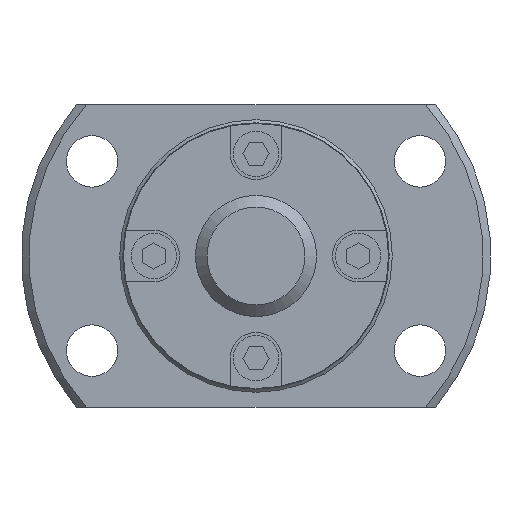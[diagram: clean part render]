
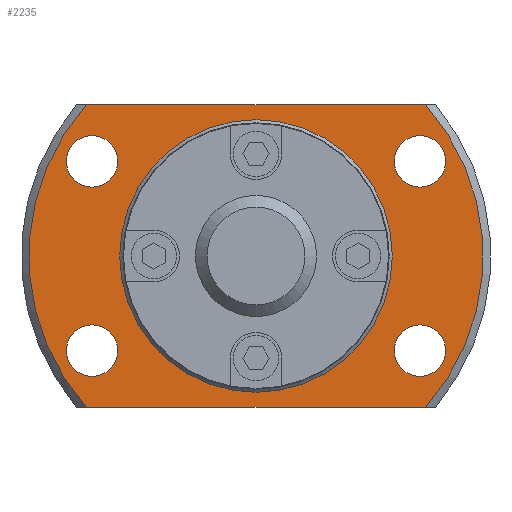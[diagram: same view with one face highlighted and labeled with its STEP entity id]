
A CAD part, left-side view. The second image highlights one B-rep face of the part: STEP entity #2235.
In plain terms, the highlighted planar face has unit normal (-1, 0, 0).
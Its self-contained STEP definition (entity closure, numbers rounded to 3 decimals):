
#68=LINE('',#3461,#284);
#69=LINE('',#3465,#285);
#284=VECTOR('',#2766,1000.);
#285=VECTOR('',#2769,1000.);
#604=ORIENTED_EDGE('',*,*,#1200,.F.);
#605=ORIENTED_EDGE('',*,*,#1201,.F.);
#606=ORIENTED_EDGE('',*,*,#1202,.F.);
#607=ORIENTED_EDGE('',*,*,#1203,.F.);
#608=ORIENTED_EDGE('',*,*,#1186,.F.);
#609=ORIENTED_EDGE('',*,*,#1204,.T.);
#610=ORIENTED_EDGE('',*,*,#1205,.F.);
#611=ORIENTED_EDGE('',*,*,#1206,.T.);
#612=ORIENTED_EDGE('',*,*,#1199,.T.);
#1186=EDGE_CURVE('',#1488,#1489,#1669,.T.);
#1199=EDGE_CURVE('',#1500,#1500,#1677,.T.);
#1200=EDGE_CURVE('',#1501,#1501,#1678,.F.);
#1201=EDGE_CURVE('',#1502,#1502,#1679,.F.);
#1202=EDGE_CURVE('',#1503,#1503,#1680,.F.);
#1203=EDGE_CURVE('',#1504,#1504,#1681,.F.);
#1204=EDGE_CURVE('',#1488,#1505,#68,.T.);
#1205=EDGE_CURVE('',#1506,#1505,#1682,.T.);
#1206=EDGE_CURVE('',#1506,#1489,#69,.T.);
#1488=VERTEX_POINT('',#3409);
#1489=VERTEX_POINT('',#3411);
#1500=VERTEX_POINT('',#3451);
#1501=VERTEX_POINT('',#3454);
#1502=VERTEX_POINT('',#3456);
#1503=VERTEX_POINT('',#3458);
#1504=VERTEX_POINT('',#3460);
#1505=VERTEX_POINT('',#3462);
#1506=VERTEX_POINT('',#3464);
#1669=CIRCLE('',#2418,15.);
#1677=CIRCLE('',#2433,8.85);
#1678=CIRCLE('',#2435,1.7);
#1679=CIRCLE('',#2436,1.7);
#1680=CIRCLE('',#2437,1.7);
#1681=CIRCLE('',#2438,1.7);
#1682=CIRCLE('',#2439,15.);
#1763=EDGE_LOOP('',(#604));
#1764=EDGE_LOOP('',(#605));
#1765=EDGE_LOOP('',(#606));
#1766=EDGE_LOOP('',(#607));
#1767=EDGE_LOOP('',(#608,#609,#610,#611));
#1768=EDGE_LOOP('',(#612));
#1957=FACE_BOUND('',#1763,.T.);
#1958=FACE_BOUND('',#1764,.T.);
#1959=FACE_BOUND('',#1765,.T.);
#1960=FACE_BOUND('',#1766,.T.);
#1961=FACE_BOUND('',#1767,.T.);
#1962=FACE_BOUND('',#1768,.T.);
#2124=PLANE('',#2434);
#2235=ADVANCED_FACE('',(#1957,#1958,#1959,#1960,#1961,#1962),#2124,.F.);
#2418=AXIS2_PLACEMENT_3D('',#3410,#2722,#2723);
#2433=AXIS2_PLACEMENT_3D('',#3450,#2754,#2755);
#2434=AXIS2_PLACEMENT_3D('',#3452,#2756,#2757);
#2435=AXIS2_PLACEMENT_3D('',#3453,#2758,#2759);
#2436=AXIS2_PLACEMENT_3D('',#3455,#2760,#2761);
#2437=AXIS2_PLACEMENT_3D('',#3457,#2762,#2763);
#2438=AXIS2_PLACEMENT_3D('',#3459,#2764,#2765);
#2439=AXIS2_PLACEMENT_3D('',#3463,#2767,#2768);
#2722=DIRECTION('',(1.,0.,0.));
#2723=DIRECTION('',(0.,0.,-1.));
#2754=DIRECTION('',(1.,0.,0.));
#2755=DIRECTION('',(0.,0.,-1.));
#2756=DIRECTION('',(1.,0.,0.));
#2757=DIRECTION('',(0.,0.,-1.));
#2758=DIRECTION('',(1.,0.,0.));
#2759=DIRECTION('',(0.,0.,-1.));
#2760=DIRECTION('',(1.,0.,0.));
#2761=DIRECTION('',(0.,0.,-1.));
#2762=DIRECTION('',(1.,0.,0.));
#2763=DIRECTION('',(0.,0.,-1.));
#2764=DIRECTION('',(1.,0.,0.));
#2765=DIRECTION('',(0.,0.,-1.));
#2766=DIRECTION('',(0.,-1.,0.));
#2767=DIRECTION('',(1.,0.,0.));
#2768=DIRECTION('',(0.,0.,-1.));
#2769=DIRECTION('',(0.,1.,0.));
#3409=CARTESIAN_POINT('',(10.,11.18,-10.));
#3410=CARTESIAN_POINT('',(10.,0.,0.));
#3411=CARTESIAN_POINT('',(10.,11.18,10.));
#3450=CARTESIAN_POINT('',(10.,0.,0.));
#3451=CARTESIAN_POINT('',(10.,0.,-8.85));
#3452=CARTESIAN_POINT('',(10.,8.85,0.));
#3453=CARTESIAN_POINT('',(10.,-10.825,-6.25));
#3454=CARTESIAN_POINT('',(10.,-10.825,-7.95));
#3455=CARTESIAN_POINT('',(10.,-10.825,6.25));
#3456=CARTESIAN_POINT('',(10.,-10.825,4.55));
#3457=CARTESIAN_POINT('',(10.,10.825,-6.25));
#3458=CARTESIAN_POINT('',(10.,10.825,-7.95));
#3459=CARTESIAN_POINT('',(10.,10.825,6.25));
#3460=CARTESIAN_POINT('',(10.,10.825,4.55));
#3461=CARTESIAN_POINT('',(10.,8.85,-10.));
#3462=CARTESIAN_POINT('',(10.,-11.18,-10.));
#3463=CARTESIAN_POINT('',(10.,0.,0.));
#3464=CARTESIAN_POINT('',(10.,-11.18,10.));
#3465=CARTESIAN_POINT('',(10.,8.85,10.));
